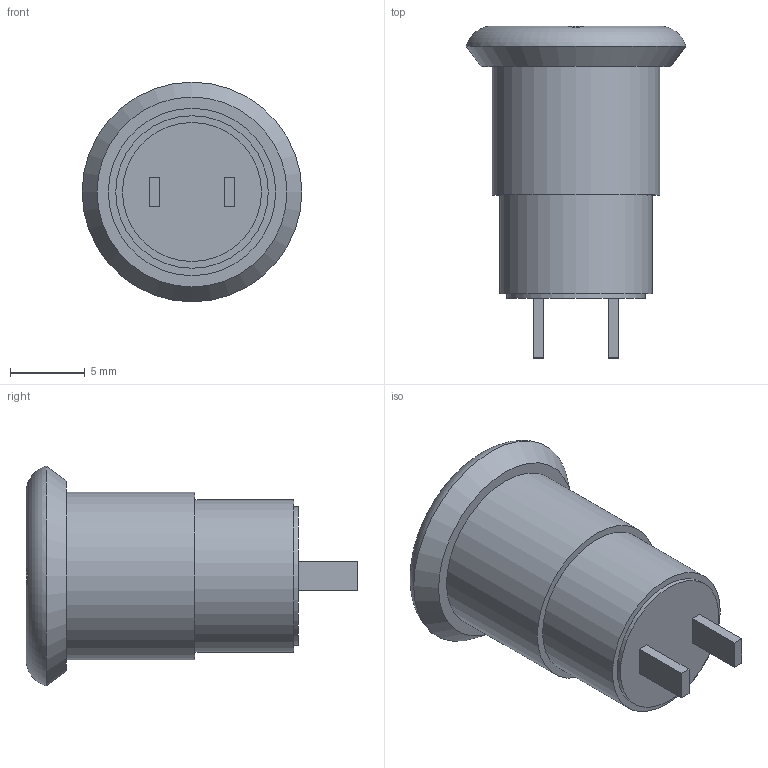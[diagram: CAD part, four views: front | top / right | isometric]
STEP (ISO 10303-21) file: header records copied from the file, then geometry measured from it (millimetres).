
FILE_DESCRIPTION(('FreeCAD Model'),'2;1');
FILE_NAME('Open CASCADE Shape Model','2023-05-06T18:44:57',('Author'),( ''),'Open CASCADE STEP processor 7.5','FreeCAD','Unknown');
FILE_SCHEMA(('AUTOMOTIVE_DESIGN { 1 0 10303 214 1 1 1 1 }'));
Length unit declared in the file: millimetre
Products named in the file (1): electronic switch lock with key
Bounding box: 14.7 x 22.2 x 14.7 mm (x, y, z)
Volume: 1761.5 mm3; surface area: 1611.8 mm2
Topology: 4 solids, 4 shells, 44 faces, 94 edges, 62 vertices
Faces by surface type: plane 33, cylinder 9, torus 1, cone 1
Full cylindrical faces by diameter (mm): 1.2 x2, 6.7 x1, 9.295 x2, 10.2 x1, 11.2 x1
Entity records: 1673 total; most frequent: CARTESIAN_POINT 206, DIRECTION 193, ORIENTED_EDGE 166, EDGE_CURVE 83, AXIS2_PLACEMENT_3D 67, VERTEX_POINT 60, EDGE_LOOP 59, VECTOR 59
